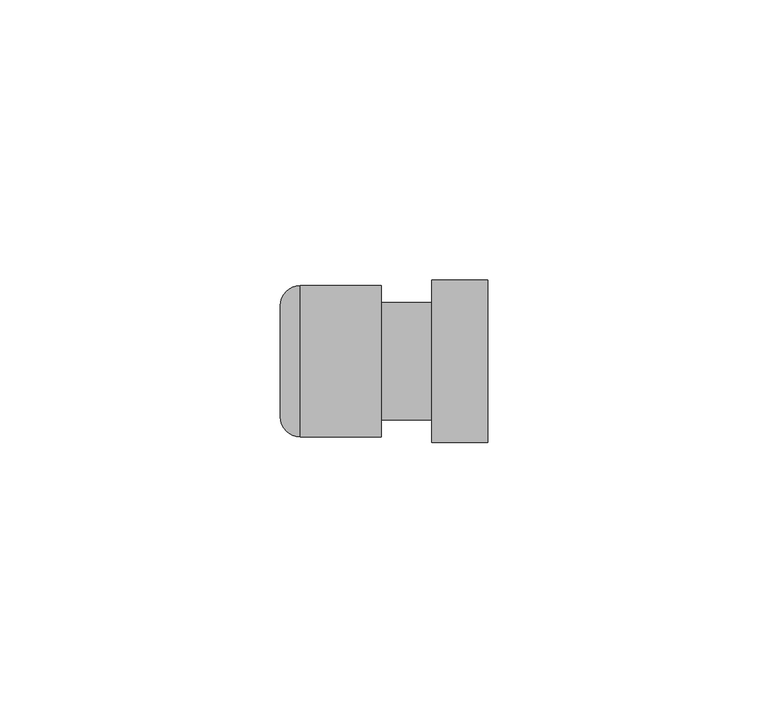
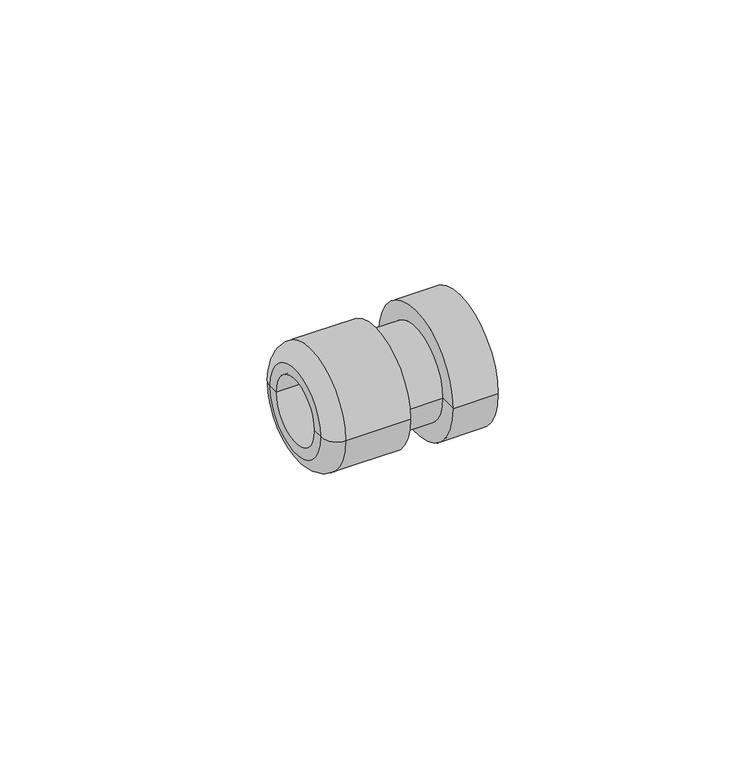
"""IFC4 building model written with IfcOpenShell, lengths in millimetres: cable carrier fitting geometry."""

from ifc_helpers import new_model, si_unit, point, frame, origin, place, context, project, spatial, polyline, circle_curve, ellipse_curve, trimmed, source, transform, mapped, element, save
from ifc_brep_helpers import plane_surface, cylinder_surface, revolved_surface, advanced_brep


def cable_carrier_fitting_e854332b(model_context):
    return source(origin(), model_context, "Body", "AdvancedBrep", [
        advanced_brep(
        [(0.0, -13.5, 0.0), (0.0, 13.5, 0.0), (0.0, 10.5, 0.0), (0.0, -10.5, 0.0), (-14.439955, -13.5, 0.0), (-14.439955, 13.5, 0.0), (-18.0, -9.939955, 0.0), (-18.0, 9.939955, 0.0), (-18.0, -7.5, 0.0), (-18.0, 7.5, 0.0), (19.0, -7.5, 0.0), (19.0, 7.5, 0.0), (19.0, -14.5, 0.0), (19.0, 14.5, 0.0), (9.0, -14.5, 0.0), (9.0, 14.5, 0.0), (9.0, -10.5, 0.0), (9.0, 10.5, 0.0)],
        [
            (0, 1, circle_curve(frame((0.0, 0.0, 0.0), z_axis=(1.0, 0.0, 0.0), x_axis=(0.0, 1.0, 0.0)), 13.5)),
            (1, 2),
            (2, 3, circle_curve(frame((0.0, 0.0, 0.0), z_axis=(-1.0, 0.0, 0.0), x_axis=(0.0, 1.0, 0.0)), 10.5)),
            (3, 0),
            (1, 0, circle_curve(frame((0.0, 0.0, 0.0), z_axis=(1.0, 0.0, 0.0), x_axis=(0.0, 1.0, 0.0)), 13.5)),
            (3, 2, circle_curve(frame((0.0, 0.0, 0.0), z_axis=(-1.0, 0.0, 0.0), x_axis=(0.0, 1.0, 0.0)), 10.5)),
            (4, 5, circle_curve(frame((-14.439955, 0.0, 0.0), z_axis=(1.0, 0.0, 0.0), x_axis=(0.0, 1.0, 0.0)), 13.5)),
            (5, 1),
            (0, 4),
            (5, 4, circle_curve(frame((-14.439955, 0.0, 0.0), z_axis=(1.0, 0.0, 0.0), x_axis=(0.0, 1.0, 0.0)), 13.5)),
            (6, 7, circle_curve(frame((-18.0, 0.0, 0.0), z_axis=(1.0, 0.0, 0.0), x_axis=(0.0, 1.0, 0.0)), 9.939955)),
            (7, 5, circle_curve(frame((-14.439955, 9.939955, 0.0), z_axis=(0.0, 0.0, -1.0), x_axis=(1.0, 0.0, 0.0)), 3.560045)),
            (4, 6, circle_curve(frame((-14.439955, -9.939955, 0.0), z_axis=(0.0, 0.0, -1.0), x_axis=(1.0, 0.0, 0.0)), 3.560045)),
            (7, 6, circle_curve(frame((-18.0, 0.0, 0.0), z_axis=(1.0, 0.0, 0.0), x_axis=(0.0, 1.0, 0.0)), 9.939955)),
            (8, 9, circle_curve(frame((-18.0, 0.0, 0.0), z_axis=(1.0, 0.0, 0.0), x_axis=(0.0, 1.0, 0.0)), 7.5)),
            (9, 7),
            (6, 8),
            (9, 8, circle_curve(frame((-18.0, 0.0, 0.0), z_axis=(1.0, 0.0, 0.0), x_axis=(0.0, 1.0, 0.0)), 7.5)),
            (10, 11, circle_curve(frame((19.0, 0.0, 0.0), z_axis=(1.0, 0.0, 0.0), x_axis=(0.0, 1.0, 0.0)), 7.5)),
            (11, 9),
            (8, 10),
            (11, 10, circle_curve(frame((19.0, 0.0, 0.0), z_axis=(1.0, 0.0, 0.0), x_axis=(0.0, 1.0, 0.0)), 7.5)),
            (12, 13, circle_curve(frame((19.0, 0.0, 0.0), z_axis=(1.0, 0.0, 0.0), x_axis=(0.0, 1.0, 0.0)), 14.5)),
            (13, 11),
            (10, 12),
            (13, 12, circle_curve(frame((19.0, 0.0, 0.0), z_axis=(1.0, 0.0, 0.0), x_axis=(0.0, 1.0, 0.0)), 14.5)),
            (14, 15, circle_curve(frame((9.0, 0.0, 0.0), z_axis=(1.0, 0.0, 0.0), x_axis=(0.0, 1.0, 0.0)), 14.5)),
            (15, 13),
            (12, 14),
            (15, 14, circle_curve(frame((9.0, 0.0, 0.0), z_axis=(1.0, 0.0, 0.0), x_axis=(0.0, 1.0, 0.0)), 14.5)),
            (16, 17, circle_curve(frame((9.0, 0.0, 0.0), z_axis=(1.0, 0.0, 0.0), x_axis=(0.0, 1.0, 0.0)), 10.5)),
            (17, 15),
            (14, 16),
            (17, 16, circle_curve(frame((9.0, 0.0, 0.0), z_axis=(1.0, 0.0, 0.0), x_axis=(0.0, 1.0, 0.0)), 10.5)),
            (2, 17),
            (16, 3),
        ],
        [
            plane_surface(frame((0.0, 0.0, 0.0), z_axis=(1.0, 0.0, 0.0), x_axis=(0.0, 1.0, 0.0))),
            cylinder_surface(frame((1543.4, 0.0, 0.0), z_axis=(-1.0, 0.0, 0.0), x_axis=(0.0, 1.0, 0.0)), 13.5),
            revolved_surface(trimmed(ellipse_curve(frame((-14.439955, 9.939955, 0.0), z_axis=(0.0, 0.0, 1.0), x_axis=(1.0, 0.0, 0.0)), 3.560045, 3.560045), [point((-14.439955, 13.5, 0.0))], [point((-18.0, 9.939955, 0.0))], True, "CARTESIAN"), (1543.4, 0.0, 0.0), (-1.0, 0.0, 0.0)),
            plane_surface(frame((-18.0, 0.0, 0.0), z_axis=(-1.0, 0.0, 0.0), x_axis=(0.0, 1.0, 0.0))),
            revolved_surface(polyline([(-18.0, 7.5, 0.0), (19.0, 7.5, 0.0)]), (1543.4, 0.0, 0.0), (-1.0, 0.0, 0.0)),
            plane_surface(frame((19.0, 0.0, 0.0), z_axis=(1.0, 0.0, 0.0), x_axis=(0.0, 1.0, 0.0))),
            cylinder_surface(frame((1543.4, 0.0, 0.0), z_axis=(-1.0, 0.0, 0.0), x_axis=(0.0, 1.0, 0.0)), 14.5),
            plane_surface(frame((9.0, 0.0, 0.0), z_axis=(-1.0, 0.0, 0.0), x_axis=(0.0, 1.0, 0.0))),
            cylinder_surface(frame((1543.4, 0.0, 0.0), z_axis=(-1.0, 0.0, 0.0), x_axis=(0.0, 1.0, 0.0)), 10.5),
        ],
        [
            (0, [[1, 2, 3, 4]]),
            (0, [[5, -4, 6, -2]]),
            (1, [[7, 8, -1, 9]]),
            (1, [[10, -9, -5, -8]]),
            (2, [[11, 12, -7, 13]]),
            (2, [[14, -13, -10, -12]]),
            (3, [[15, 16, -11, 17]]),
            (3, [[18, -17, -14, -16]]),
            (4, [[19, 20, -15, 21]]),
            (4, [[22, -21, -18, -20]]),
            (5, [[23, 24, -19, 25]]),
            (5, [[26, -25, -22, -24]]),
            (6, [[27, 28, -23, 29]]),
            (6, [[30, -29, -26, -28]]),
            (7, [[31, 32, -27, 33]]),
            (7, [[34, -33, -30, -32]]),
            (8, [[-3, 35, -31, 36]]),
            (8, [[-6, -36, -34, -35]]),
        ],
    ),
    ])


if __name__ == "__main__":
    model = new_model("IFC4")
    model_context = context("Model", 3, world=origin())
    ifc_project = project(units=[si_unit("LENGTHUNIT", "METRE", prefix="MILLI")], contexts=[model_context])
    site = spatial("IfcSite", under=ifc_project)
    building = spatial("IfcBuilding", under=site)
    placement = place(None, origin())
    cable_carrier_fitting_shape = cable_carrier_fitting_e854332b(model_context)
    element("IfcCableCarrierFitting", 1, at=placement, inside=building, context=model_context, shape_type="MappedRepresentation", body=[
        mapped(cable_carrier_fitting_shape, transform((0.0, 0.0, 0.0), x_axis=(1.0, 0.0, 0.0), y_axis=(0.0, 1.0, 0.0), z_axis=(0.0, 0.0, 1.0))),
    ])
    save(model, "model.ifc")
